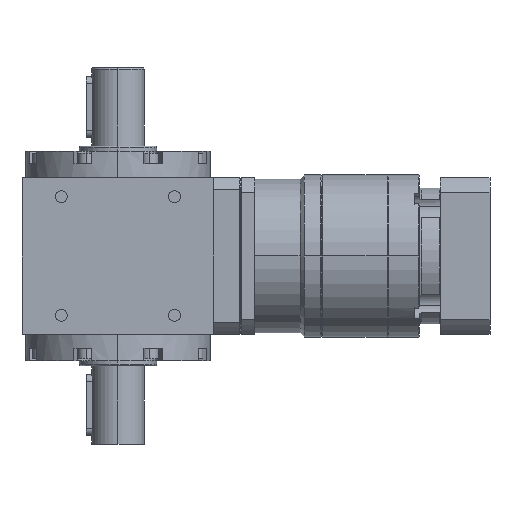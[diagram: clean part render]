
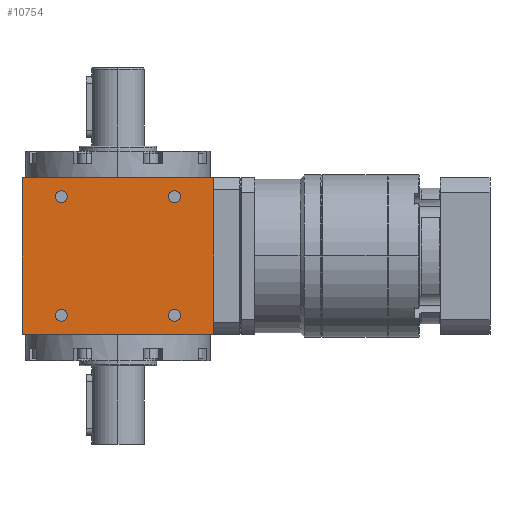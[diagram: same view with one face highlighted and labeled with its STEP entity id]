
A CAD part, left-side view. The second image highlights one B-rep face of the part: STEP entity #10754.
In plain terms, the highlighted planar face has unit normal (-1, 0, 0).
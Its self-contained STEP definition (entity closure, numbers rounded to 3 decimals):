
#149 = CARTESIAN_POINT ( 'NONE',  ( -55., 35.9, -34. ) ) ;
#306 = CARTESIAN_POINT ( 'NONE',  ( -55., -32.5, 34. ) ) ;
#327 = AXIS2_PLACEMENT_3D ( 'NONE', #8419, #9706, #12113 ) ;
#328 = CARTESIAN_POINT ( 'NONE',  ( -55., 55., 45. ) ) ;
#377 = EDGE_LOOP ( 'NONE', ( #1675, #2235 ) ) ;
#533 = EDGE_CURVE ( 'NONE', #8224, #10591, #14800, .T. ) ;
#610 = DIRECTION ( 'NONE',  ( 0., 0., 1. ) ) ;
#643 = CARTESIAN_POINT ( 'NONE',  ( -55., 32.5, -34. ) ) ;
#718 = CIRCLE ( 'NONE', #2658, 3.4 ) ;
#791 = CIRCLE ( 'NONE', #9305, 3.4 ) ;
#844 = DIRECTION ( 'NONE',  ( 0., -1., 0. ) ) ;
#935 = ORIENTED_EDGE ( 'NONE', *, *, #14108, .T. ) ;
#1057 = DIRECTION ( 'NONE',  ( 0., -1., 0. ) ) ;
#1173 = AXIS2_PLACEMENT_3D ( 'NONE', #1766, #6490, #2904 ) ;
#1486 = AXIS2_PLACEMENT_3D ( 'NONE', #14790, #10148, #5272 ) ;
#1675 = ORIENTED_EDGE ( 'NONE', *, *, #5627, .T. ) ;
#1755 = CIRCLE ( 'NONE', #327, 3.4 ) ;
#1766 = CARTESIAN_POINT ( 'NONE',  ( -55., 55., -45. ) ) ;
#1967 = AXIS2_PLACEMENT_3D ( 'NONE', #2889, #9830, #2819 ) ;
#2019 = CIRCLE ( 'NONE', #7129, 3.4 ) ;
#2162 = DIRECTION ( 'NONE',  ( 0., -1., 0. ) ) ;
#2220 = DIRECTION ( 'NONE',  ( 1., 0., 0. ) ) ;
#2235 = ORIENTED_EDGE ( 'NONE', *, *, #11227, .T. ) ;
#2313 = VECTOR ( 'NONE', #2162, 1000. ) ;
#2343 = ORIENTED_EDGE ( 'NONE', *, *, #7581, .T. ) ;
#2658 = AXIS2_PLACEMENT_3D ( 'NONE', #6871, #2220, #3513 ) ;
#2819 = DIRECTION ( 'NONE',  ( 0., -1., 0. ) ) ;
#2889 = CARTESIAN_POINT ( 'NONE',  ( -55., 32.5, -34. ) ) ;
#2904 = DIRECTION ( 'NONE',  ( 0., 0., 1. ) ) ;
#2965 = VERTEX_POINT ( 'NONE', #11598 ) ;
#3006 = DIRECTION ( 'NONE',  ( 1., 0., 0. ) ) ;
#3141 = EDGE_LOOP ( 'NONE', ( #2343, #6826 ) ) ;
#3251 = CARTESIAN_POINT ( 'NONE',  ( -55., 0., 45. ) ) ;
#3404 = AXIS2_PLACEMENT_3D ( 'NONE', #643, #5281, #8208 ) ;
#3513 = DIRECTION ( 'NONE',  ( 0., -1., 0. ) ) ;
#3689 = EDGE_CURVE ( 'NONE', #8224, #4835, #13308, .T. ) ;
#3980 = PLANE ( 'NONE',  #1173 ) ;
#4043 = CARTESIAN_POINT ( 'NONE',  ( -55., -55., -45. ) ) ;
#4124 = FACE_BOUND ( 'NONE', #14282, .T. ) ;
#4395 = CIRCLE ( 'NONE', #1967, 3.4 ) ;
#4534 = EDGE_CURVE ( 'NONE', #10591, #10227, #14783, .T. ) ;
#4715 = EDGE_CURVE ( 'NONE', #12719, #11045, #718, .T. ) ;
#4787 = CARTESIAN_POINT ( 'NONE',  ( -55., -55., 45. ) ) ;
#4835 = VERTEX_POINT ( 'NONE', #328 ) ;
#5052 = CIRCLE ( 'NONE', #9199, 3.4 ) ;
#5177 = VERTEX_POINT ( 'NONE', #10793 ) ;
#5193 = FACE_OUTER_BOUND ( 'NONE', #5277, .T. ) ;
#5272 = DIRECTION ( 'NONE',  ( 0., -1., 0. ) ) ;
#5277 = EDGE_LOOP ( 'NONE', ( #6752, #11667, #7610, #11435 ) ) ;
#5281 = DIRECTION ( 'NONE',  ( 1., 0., 0. ) ) ;
#5463 = ORIENTED_EDGE ( 'NONE', *, *, #4715, .T. ) ;
#5619 = VERTEX_POINT ( 'NONE', #12185 ) ;
#5627 = EDGE_CURVE ( 'NONE', #2965, #11830, #9487, .T. ) ;
#6490 = DIRECTION ( 'NONE',  ( -1., 0., 0. ) ) ;
#6752 = ORIENTED_EDGE ( 'NONE', *, *, #3689, .F. ) ;
#6760 = EDGE_CURVE ( 'NONE', #4835, #10227, #9051, .T. ) ;
#6826 = ORIENTED_EDGE ( 'NONE', *, *, #10084, .T. ) ;
#6871 = CARTESIAN_POINT ( 'NONE',  ( -55., -32.5, -34. ) ) ;
#7129 = AXIS2_PLACEMENT_3D ( 'NONE', #306, #13065, #10714 ) ;
#7581 = EDGE_CURVE ( 'NONE', #5177, #12802, #13612, .T. ) ;
#7610 = ORIENTED_EDGE ( 'NONE', *, *, #4534, .T. ) ;
#7958 = CARTESIAN_POINT ( 'NONE',  ( -55., 0., -45. ) ) ;
#8176 = CARTESIAN_POINT ( 'NONE',  ( -55., -29.1, -34. ) ) ;
#8207 = VECTOR ( 'NONE', #610, 1000. ) ;
#8208 = DIRECTION ( 'NONE',  ( 0., -1., 0. ) ) ;
#8224 = VERTEX_POINT ( 'NONE', #12123 ) ;
#8419 = CARTESIAN_POINT ( 'NONE',  ( -55., -32.5, -34. ) ) ;
#8592 = CARTESIAN_POINT ( 'NONE',  ( -55., -35.9, 34. ) ) ;
#8696 = DIRECTION ( 'NONE',  ( 0., 0., 1. ) ) ;
#8732 = VECTOR ( 'NONE', #8696, 1000. ) ;
#9051 = LINE ( 'NONE', #3251, #9518 ) ;
#9199 = AXIS2_PLACEMENT_3D ( 'NONE', #14838, #14917, #844 ) ;
#9305 = AXIS2_PLACEMENT_3D ( 'NONE', #13063, #3006, #13430 ) ;
#9445 = CARTESIAN_POINT ( 'NONE',  ( -55., -35.9, -34. ) ) ;
#9477 = CARTESIAN_POINT ( 'NONE',  ( -55., -55., -45. ) ) ;
#9487 = CIRCLE ( 'NONE', #3404, 3.4 ) ;
#9518 = VECTOR ( 'NONE', #1057, 1000. ) ;
#9706 = DIRECTION ( 'NONE',  ( 1., 0., 0. ) ) ;
#9809 = CARTESIAN_POINT ( 'NONE',  ( -55., 35.9, 34. ) ) ;
#9830 = DIRECTION ( 'NONE',  ( 1., 0., 0. ) ) ;
#9843 = FACE_BOUND ( 'NONE', #3141, .T. ) ;
#10084 = EDGE_CURVE ( 'NONE', #12802, #5177, #5052, .T. ) ;
#10148 = DIRECTION ( 'NONE',  ( 1., 0., 0. ) ) ;
#10227 = VERTEX_POINT ( 'NONE', #4787 ) ;
#10508 = ORIENTED_EDGE ( 'NONE', *, *, #14957, .T. ) ;
#10591 = VERTEX_POINT ( 'NONE', #9477 ) ;
#10714 = DIRECTION ( 'NONE',  ( 0., -1., 0. ) ) ;
#10754 = ADVANCED_FACE ( 'NONE', ( #5193, #9843, #14410, #12335, #4124 ), #3980, .T. ) ;
#10793 = CARTESIAN_POINT ( 'NONE',  ( -55., 29.1, 34. ) ) ;
#11045 = VERTEX_POINT ( 'NONE', #8176 ) ;
#11227 = EDGE_CURVE ( 'NONE', #11830, #2965, #4395, .T. ) ;
#11435 = ORIENTED_EDGE ( 'NONE', *, *, #6760, .F. ) ;
#11598 = CARTESIAN_POINT ( 'NONE',  ( -55., 29.1, -34. ) ) ;
#11667 = ORIENTED_EDGE ( 'NONE', *, *, #533, .T. ) ;
#11830 = VERTEX_POINT ( 'NONE', #149 ) ;
#12113 = DIRECTION ( 'NONE',  ( 0., -1., 0. ) ) ;
#12123 = CARTESIAN_POINT ( 'NONE',  ( -55., 55., -45. ) ) ;
#12153 = CARTESIAN_POINT ( 'NONE',  ( -55., 55., -45. ) ) ;
#12185 = CARTESIAN_POINT ( 'NONE',  ( -55., -29.1, 34. ) ) ;
#12335 = FACE_BOUND ( 'NONE', #14551, .T. ) ;
#12719 = VERTEX_POINT ( 'NONE', #9445 ) ;
#12802 = VERTEX_POINT ( 'NONE', #9809 ) ;
#12849 = VERTEX_POINT ( 'NONE', #8592 ) ;
#13063 = CARTESIAN_POINT ( 'NONE',  ( -55., -32.5, 34. ) ) ;
#13065 = DIRECTION ( 'NONE',  ( 1., 0., 0. ) ) ;
#13308 = LINE ( 'NONE', #12153, #8207 ) ;
#13430 = DIRECTION ( 'NONE',  ( 0., -1., 0. ) ) ;
#13612 = CIRCLE ( 'NONE', #1486, 3.4 ) ;
#13815 = ORIENTED_EDGE ( 'NONE', *, *, #14394, .T. ) ;
#14108 = EDGE_CURVE ( 'NONE', #12849, #5619, #791, .T. ) ;
#14282 = EDGE_LOOP ( 'NONE', ( #935, #10508 ) ) ;
#14394 = EDGE_CURVE ( 'NONE', #11045, #12719, #1755, .T. ) ;
#14410 = FACE_BOUND ( 'NONE', #377, .T. ) ;
#14551 = EDGE_LOOP ( 'NONE', ( #5463, #13815 ) ) ;
#14783 = LINE ( 'NONE', #4043, #8732 ) ;
#14790 = CARTESIAN_POINT ( 'NONE',  ( -55., 32.5, 34. ) ) ;
#14800 = LINE ( 'NONE', #7958, #2313 ) ;
#14838 = CARTESIAN_POINT ( 'NONE',  ( -55., 32.5, 34. ) ) ;
#14917 = DIRECTION ( 'NONE',  ( 1., 0., 0. ) ) ;
#14957 = EDGE_CURVE ( 'NONE', #5619, #12849, #2019, .T. ) ;
